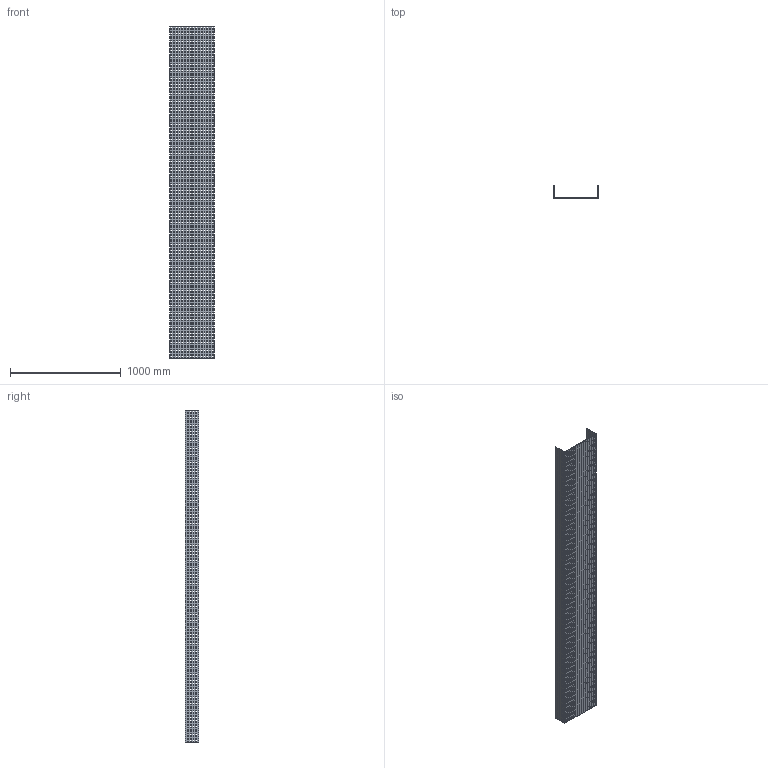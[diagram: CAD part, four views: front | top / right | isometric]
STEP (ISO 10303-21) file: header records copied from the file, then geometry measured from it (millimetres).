
FILE_DESCRIPTION (( 'STEP AP214' ), '1' );
FILE_NAME ('01B3J400.step', '2025-02-21T10:06:23', ( '' ), ( '' ), 'SwSTEP 2.0', 'SolidWorks 2023', '' );
FILE_SCHEMA (( 'AUTOMOTIVE_DESIGN' ));
Length unit declared in the file: millimetre
Products named in the file (1): 01B3J400
Bounding box: 404 x 117.5 x 3000 mm (x, y, z)
Volume: 5577600 mm3; surface area: 3599696 mm2
Topology: 1 solids, 1 shells, 6922 faces, 20760 edges, 13840 vertices
Faces by surface type: plane 6922
Entity records: 235319 total; most frequent: CARTESIAN_POINT 41523, ORIENTED_EDGE 41520, DIRECTION 34606, EDGE_CURVE 20760, VECTOR 20760, LINE 20760, VERTEX_POINT 13840, EDGE_LOOP 10378
